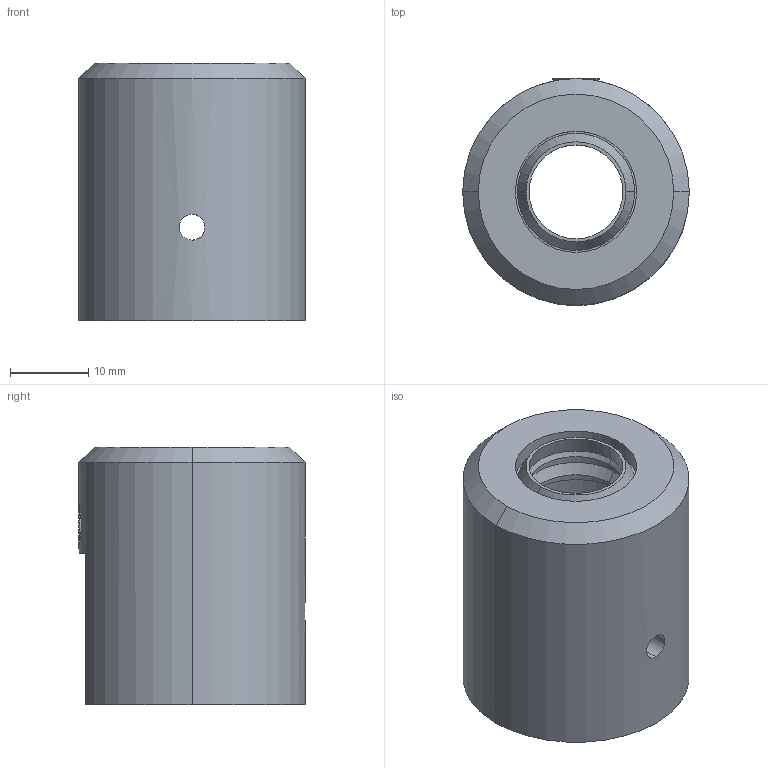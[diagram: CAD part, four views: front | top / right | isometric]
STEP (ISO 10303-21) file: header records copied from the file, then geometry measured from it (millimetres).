
FILE_DESCRIPTION (( 'STEP AP214' ), '1' );
FILE_NAME ('PA01-23!12-F.STEP', '2008-04-09T15:01:43', ( 'Ausderau' ), ( 'NTI AG' ), 'SwSTEP 2.0', 'SolidWorks 2005037', '' );
FILE_SCHEMA (( 'AUTOMOTIVE_DESIGN' ));
Length unit declared in the file: millimetre
Products named in the file (1): PA01-23!12-F
Bounding box: 29 x 29.03 x 33 mm (x, y, z)
Volume: 9891.1 mm3; surface area: 6048.1 mm2
Topology: 1 solids, 1 shells, 50 faces, 110 edges, 67 vertices
Faces by surface type: cylinder 24, cone 14, plane 10, torus 2
Entity records: 1922 total; most frequent: CARTESIAN_POINT 449, DIRECTION 259, ORIENTED_EDGE 220, EDGE_CURVE 110, AXIS2_PLACEMENT_3D 109, VERTEX_POINT 67, EDGE_LOOP 61, CIRCLE 58
